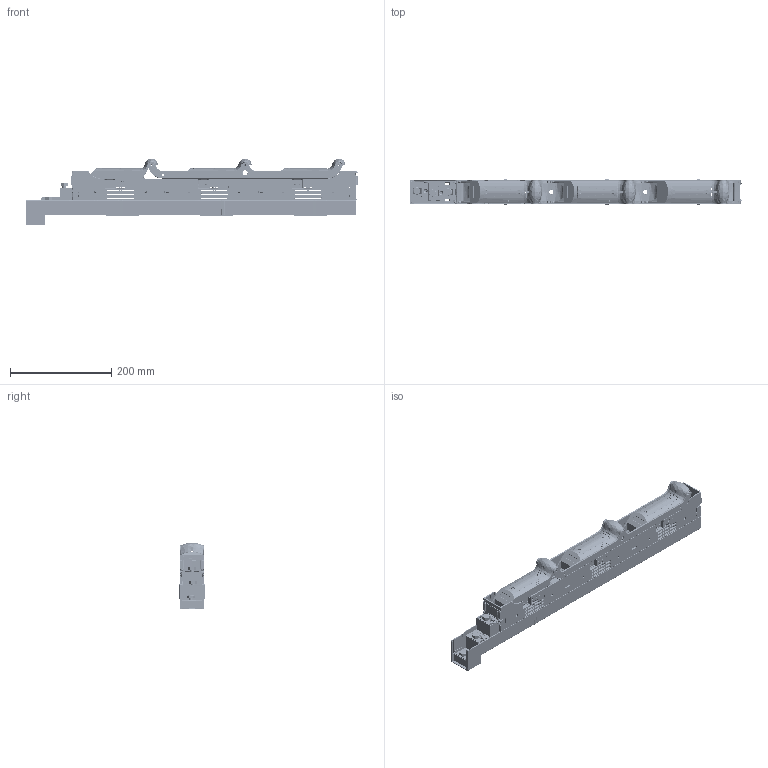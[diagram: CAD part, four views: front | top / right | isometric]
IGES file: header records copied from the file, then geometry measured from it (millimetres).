
Start section: SolidWorks IGES file using analytic representation for surfaces
Global section: file name: U:\14_RD\05_Technical_office\04_Office\Hrdinova\3D modely - IGES\Varius - FSD\FSD00-33D-F.IGS; native system: SolidWorks 2011; preprocessor: SolidWorks 2011; author: adhrja3; date: 170620.115442; units: millimetre
Bounding box: 654.93 x 49.8 x 132.12 mm (x, y, z)
Surface area: 670415.6 mm2 (no closed solid volume)
Topology: 0 solids, 0 shells, 10206 faces, 82548 edges, 82466 vertices
Faces by surface type: bspline 6374, revolution 3832
